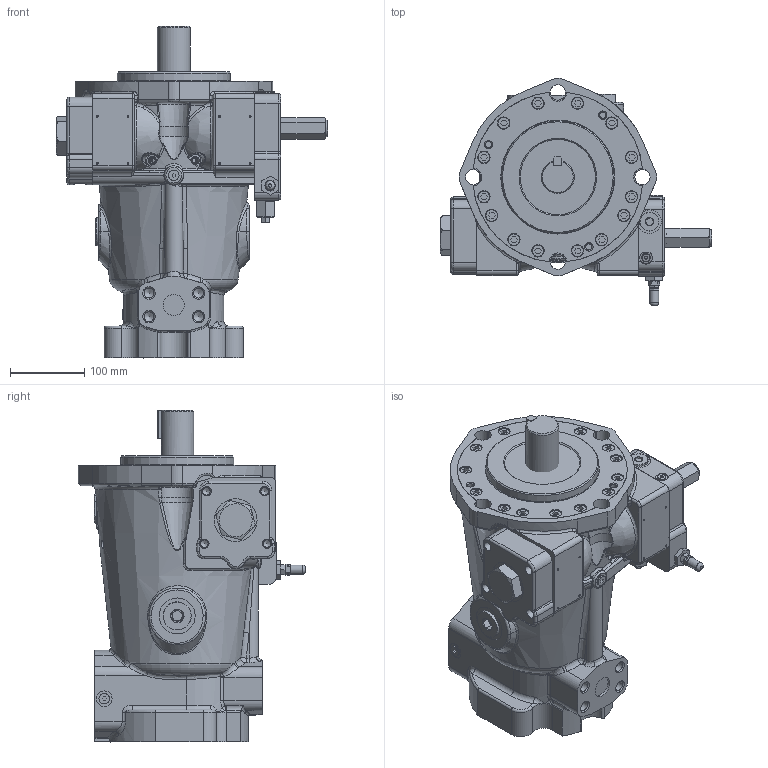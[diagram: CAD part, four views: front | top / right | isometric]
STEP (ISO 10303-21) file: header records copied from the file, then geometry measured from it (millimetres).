
FILE_DESCRIPTION(/* description */ (''),/* implementation_level */ '2;1');
FILE_NAME(/* name */ 'G:\Cadusers\Miller\3D\P072L4CC1000 solid.stp',/* time_stamp */ '2015-01-29T10:32:24-05:00',/* author */ ('cma4859'),/* organization */ (''),/* preprocessor_version */ 'ST-DEVELOPER v15.2',/* originating_system */ 'Autodesk Inventor 2014',/* authorisation */ '');
FILE_SCHEMA (('AUTOMOTIVE_DESIGN { 1 0 10303 214 3 1 1 }'));
Products named in the file (1): P072L4CC1000 solid
Bounding box: 366.47 x 306.59 x 448.13 mm (x, y, z)
Volume: 14809070.5 mm3; surface area: 761204.5 mm2
Topology: 42 solids, 42 shells, 1518 faces, 4243 edges, 2905 vertices
Faces by surface type: plane 549, cylinder 382, cone 263, bspline 221, torus 94, sphere 9
Full cylindrical faces by diameter (mm): 1.5 x2, 2.286 x8, 3.175 x1, 6 x2, 6.35 x3, 6.401 x1, 6.413 x1, 6.782 x1, 7.938 x4, 8.382 x17, 9.246 x6, 9.52 x1, 9.652 x1, 10 x4, 10.109 x8, 10.16 x14, 10.319 x14, 11.1 x2, 11.113 x7, 12.217 x2, 12.5 x9, 13.386 x8, 13.7 x1, 14 x1, 14.224 x3, 14.287 x1, 15.621 x1, 15.875 x1, 15.938 x1, 16.447 x14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
Entity records: 66296 total; most frequent: CARTESIAN_POINT 30816, ORIENTED_EDGE 7450, DIRECTION 6215, EDGE_CURVE 3725, VERTEX_POINT 2813, AXIS2_PLACEMENT_3D 2627, EDGE_LOOP 2110, STYLED_ITEM 1560
